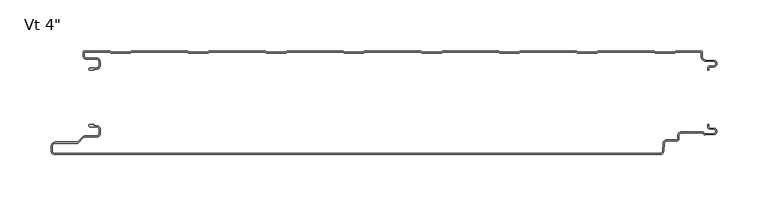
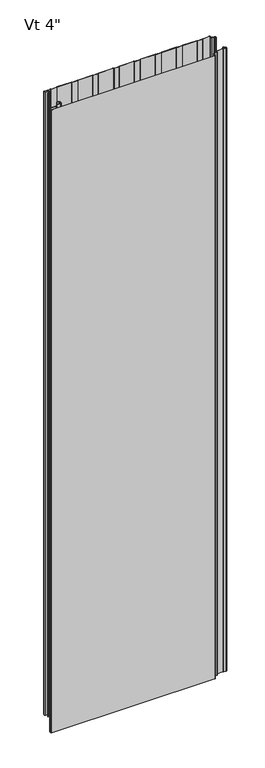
"""IFC4 building model written with IfcOpenShell, lengths in millimetres: plate geometry."""

from ifc_helpers import new_model, si_unit, point, frame, frame_2d, origin, origin_with_axes, place, context, project, spatial, polyline, circle_curve, trimmed, segment, composite_curve, outline, extrude, source, transform, mapped, element, save
from ifc_brep_helpers import plane_surface, cylinder_surface, revolved_surface, advanced_brep


def plate_2a5bf7fb(model_context):
    return source(origin(), model_context, "Body", "SolidModel", [
        advanced_brep(
        [(-302.7686912, -17.0015159, 2400.0), (-303.7686884, -18.0015191, 2400.0), (-302.7686912, -19.0015104, 2400.0), (-298.7684875, -19.0015105, 2400.0), (-298.7684875, -18.0015159, 2400.0), (-296.0762777, -18.0015159, 2400.0), (-292.776282, -14.7015202, 2400.0), (-292.776282, -10.301529, 2400.0), (-296.0762775, -7.0015335, 2400.0), (-306.4962564, -7.0015335, 2400.0), (-308.2662506, -5.2315393, 2400.0), (-308.2662506, -0.9999916, 2400.0), (-283.765974, -0.9999916, 2400.0), (-282.3803314, -2.2002307, 2400.0), (-263.0051651, -2.2002307, 2400.0), (-261.6195321, -1.0, 2400.0), (-207.5661167, -1.0, 2400.0), (-206.1804838, -2.2002307, 2400.0), (-186.8053175, -2.2002307, 2400.0), (-185.4196845, -1.0, 2400.0), (-131.3662691, -1.0, 2400.0), (-129.9806362, -2.2002307, 2400.0), (-110.6054699, -2.2002307, 2400.0), (-109.2198369, -1.0, 2400.0), (-55.1664215, -1.0, 2400.0), (-53.7807886, -2.2002307, 2400.0), (-34.4056223, -2.2002307, 2400.0), (-33.0199893, -1.0, 2400.0), (21.0334261, -1.0, 2400.0), (22.419059, -2.2002307, 2400.0), (41.7942253, -2.2002307, 2400.0), (43.1798583, -1.0, 2400.0), (97.2332737, -1.0, 2400.0), (98.6189066, -2.2002307, 2400.0), (117.9940729, -2.2002307, 2400.0), (119.3797059, -1.0, 2400.0), (173.4331213, -1.0, 2400.0), (174.8187542, -2.2002307, 2400.0), (194.1939205, -2.2002307, 2400.0), (195.5795535, -1.0, 2400.0), (249.6329689, -1.0, 2400.0), (251.0186018, -2.2002307, 2400.0), (270.3937681, -2.2002307, 2400.0), (271.7794011, -1.0, 2400.0), (296.2787013, -1.0, 2400.0), (296.2787013, -6.0026007, 2400.0), (300.1016499, -9.9974365, 2400.0), (308.5931719, -10.4046442, 2400.0), (308.5921924, -14.7059822, 2400.0), (304.4513685, -14.9256429, 2400.0), (302.7686884, -16.6743462, 2400.0), (302.7686884, -19.0015288, 2400.0), (303.7686884, -19.0015288, 2400.0), (303.7686884, -16.6743462, 2400.0), (304.4955779, -15.9247038, 2400.0), (308.6451655, -15.7045782, 2400.0), (308.6435732, -9.405912, 2400.0), (300.1495495, -8.9985844, 2400.0), (297.2787013, -6.0004836, 2400.0), (297.2787013, -1.4015652, 2400.0), (295.878797, -0.001568, 2400.0), (271.9275849, 2.09e-05, 2400.0), (271.0119353, -0.3417885, 2400.0), (270.0208877, -1.2002307, 2400.0), (251.3914823, -1.2002307, 2400.0), (250.4004346, -0.3417885, 2400.0), (249.4838177, 0.0, 2400.0), (195.7287046, 0.0, 2400.0), (194.8120877, -0.3417885, 2400.0), (193.8210401, -1.2002307, 2400.0), (175.1916347, -1.2002307, 2400.0), (174.200587, -0.3417885, 2400.0), (173.2839701, 0.0, 2400.0), (119.528857, 0.0, 2400.0), (118.6122401, -0.3417885, 2400.0), (117.6211925, -1.2002307, 2400.0), (98.9917871, -1.2002307, 2400.0), (98.0007394, -0.3417885, 2400.0), (97.0841225, 0.0, 2400.0), (43.3290094, 0.0, 2400.0), (42.4123925, -0.3417885, 2400.0), (41.4213449, -1.2002307, 2400.0), (22.7919395, -1.2002307, 2400.0), (21.8008918, -0.3417885, 2400.0), (20.8842749, 0.0, 2400.0), (-32.8708382, 0.0, 2400.0), (-33.7874551, -0.3417885, 2400.0), (-34.7785027, -1.2002307, 2400.0), (-53.4079081, -1.2002307, 2400.0), (-54.3989558, -0.3417885, 2400.0), (-55.3155727, 0.0, 2400.0), (-109.0706858, 0.0, 2400.0), (-109.9873027, -0.3417885, 2400.0), (-110.9783503, -1.2002307, 2400.0), (-129.6077557, -1.2002307, 2400.0), (-130.5988034, -0.3417885, 2400.0), (-131.5154203, 0.0, 2400.0), (-185.2705334, 0.0, 2400.0), (-186.1871503, -0.3417885, 2400.0), (-187.1781979, -1.2002307, 2400.0), (-205.8076033, -1.2002307, 2400.0), (-206.798651, -0.3417885, 2400.0), (-207.7152679, 0.0, 2400.0), (-261.470381, 0.0, 2400.0), (-262.3869979, -0.3417885, 2400.0), (-263.3780455, -1.2002307, 2400.0), (-282.0074509, -1.2002307, 2400.0), (-282.9984986, -0.3417885, 2400.0), (-283.9152069, 0.0, 2400.0), (-307.8662545, 8.4e-06, 2400.0), (-309.2662506, -1.3999878, 2400.0), (-309.2662506, -5.2315393, 2400.0), (-306.4962564, -8.0015335, 2400.0), (-296.0762775, -8.0015335, 2400.0), (-293.776282, -10.301529, 2400.0), (-293.776282, -14.7015202, 2400.0), (-296.0762777, -17.0015159, 2400.0), (-302.7686912, -17.0015159, 0.0), (-296.0762777, -17.0015159, 0.0), (-293.776282, -14.7015202, 0.0), (-293.776282, -10.301529, 0.0), (-296.0762775, -8.0015335, 0.0), (-306.4962564, -8.0015335, 0.0), (-309.2662506, -5.2315393, 0.0), (-309.2662506, -1.3999878, 0.0), (-307.8662545, 8.4e-06, 0.0), (-283.9151155, 8.4e-06, 0.0), (-282.9984986, -0.3417885, 0.0), (-282.0074509, -1.2002307, 0.0), (-263.3780455, -1.2002307, 0.0), (-262.3869979, -0.3417885, 0.0), (-261.470381, 0.0, 0.0), (-207.7152679, 0.0, 0.0), (-206.798651, -0.3417885, 0.0), (-205.8076033, -1.2002307, 0.0), (-187.1781979, -1.2002307, 0.0), (-186.1871503, -0.3417885, 0.0), (-185.2705334, 0.0, 0.0), (-131.5154203, 0.0, 0.0), (-130.5988034, -0.3417885, 0.0), (-129.6077557, -1.2002307, 0.0), (-110.9783503, -1.2002307, 0.0), (-109.9873027, -0.3417885, 0.0), (-109.0706858, 0.0, 0.0), (-55.3155727, 0.0, 0.0), (-54.3989558, -0.3417885, 0.0), (-53.4079081, -1.2002307, 0.0), (-34.7785027, -1.2002307, 0.0), (-33.7874551, -0.3417885, 0.0), (-32.8708382, 0.0, 0.0), (20.8842749, 0.0, 0.0), (21.8008918, -0.3417885, 0.0), (22.7919395, -1.2002307, 0.0), (41.4213449, -1.2002307, 0.0), (42.4123925, -0.3417885, 0.0), (43.3290094, 0.0, 0.0), (97.0841225, 0.0, 0.0), (98.0007394, -0.3417885, 0.0), (98.9917871, -1.2002307, 0.0), (117.6211925, -1.2002307, 0.0), (118.6122401, -0.3417885, 0.0), (119.528857, 0.0, 0.0), (173.2839701, 0.0, 0.0), (174.200587, -0.3417885, 0.0), (175.1916347, -1.2002307, 0.0), (193.8210401, -1.2002307, 0.0), (194.8120877, -0.3417885, 0.0), (195.7287046, 0.0, 0.0), (249.4838177, 0.0, 0.0), (250.4004346, -0.3417885, 0.0), (251.3914823, -1.2002307, 0.0), (270.0208877, -1.2002307, 0.0), (271.0119353, -0.3417885, 0.0), (271.9285522, 0.0, 0.0), (295.878797, 2.09e-05, 0.0), (297.2787013, -1.4015652, 0.0), (297.2787013, -6.0004836, 0.0), (300.1495495, -8.9985844, 0.0), (308.6435732, -9.405912, 0.0), (308.6451655, -15.7045782, 0.0), (304.4955779, -15.9247038, 0.0), (303.7686884, -16.6743462, 0.0), (303.7686884, -19.0015288, 0.0), (302.7686884, -19.0015288, 0.0), (302.7686884, -16.6743462, 0.0), (304.4513685, -14.9256429, 0.0), (308.5921924, -14.7059822, 0.0), (308.5931719, -10.4046442, 0.0), (300.1016499, -9.9974365, 0.0), (296.2787013, -6.0026007, 0.0), (296.2787013, -1.0, 0.0), (271.7794011, -1.0, 0.0), (270.3937681, -2.2002307, 0.0), (251.0186018, -2.2002307, 0.0), (249.6329689, -1.0, 0.0), (195.5795535, -1.0, 0.0), (194.1939205, -2.2002307, 0.0), (174.8187542, -2.2002307, 0.0), (173.4331213, -1.0, 0.0), (119.3797059, -1.0, 0.0), (117.9940729, -2.2002307, 0.0), (98.6189066, -2.2002307, 0.0), (97.2332737, -1.0, 0.0), (43.1798583, -1.0, 0.0), (41.7942253, -2.2002307, 0.0), (22.419059, -2.2002307, 0.0), (21.0334261, -1.0, 0.0), (-33.0199893, -1.0, 0.0), (-34.4056223, -2.2002307, 0.0), (-53.7807886, -2.2002307, 0.0), (-55.1664215, -1.0, 0.0), (-109.2198369, -1.0, 0.0), (-110.6054699, -2.2002307, 0.0), (-129.9806362, -2.2002307, 0.0), (-131.3662691, -1.0, 0.0), (-185.4196845, -1.0, 0.0), (-186.8053175, -2.2002307, 0.0), (-206.1804838, -2.2002307, 0.0), (-207.5661167, -1.0, 0.0), (-261.6195321, -1.0, 0.0), (-263.0051651, -2.2002307, 0.0), (-282.3803314, -2.2002307, 0.0), (-283.765974, -0.9999916, 0.0), (-308.2662506, -0.9999916, 0.0), (-308.2662506, -5.2315393, 0.0), (-306.4962564, -7.0015335, 0.0), (-296.0762775, -7.0015335, 0.0), (-292.776282, -10.301529, 0.0), (-292.776282, -14.7015202, 0.0), (-296.0762777, -18.0015159, 0.0), (-298.7684875, -18.0015159, 0.0), (-298.7684875, -19.0015105, 0.0), (-302.7686912, -19.0015105, 0.0), (-303.7686884, -18.0015191, 0.0)],
        [
            (0, 1, circle_curve(frame((-302.7686912, -18.0015132, 2400.0), z_axis=(0.0, 0.0, 1.0), x_axis=(1.0, 0.0, 0.0)), 0.9999973)),
            (1, 2, circle_curve(frame((-302.7686912, -18.0015132, 2400.0), z_axis=(0.0, 0.0, 1.0), x_axis=(1.0, 0.0, 0.0)), 0.9999972)),
            (2, 3),
            (3, 4),
            (4, 5),
            (5, 6, circle_curve(frame((-296.0762777, -14.7015202, 2400.0), z_axis=(0.0, 0.0, 1.0), x_axis=(1.0, 0.0, 0.0)), 3.2999957)),
            (6, 7),
            (7, 8, circle_curve(frame((-296.0762775, -10.301529, 2400.0), z_axis=(0.0, 0.0, 1.0), x_axis=(1.0, 0.0, 0.0)), 3.2999955)),
            (8, 9),
            (9, 10, circle_curve(frame((-306.4962564, -5.2315393, 2400.0), z_axis=(0.0, 0.0, -1.0), x_axis=(1.0, 0.0, 0.0)), 1.7699942)),
            (10, 11),
            (11, 12),
            (12, 13),
            (13, 14),
            (14, 15),
            (15, 16),
            (16, 17),
            (17, 18),
            (18, 19),
            (19, 20),
            (20, 21),
            (21, 22),
            (22, 23),
            (23, 24),
            (24, 25),
            (25, 26),
            (26, 27),
            (27, 28),
            (28, 29),
            (29, 30),
            (30, 31),
            (31, 32),
            (32, 33),
            (33, 34),
            (34, 35),
            (35, 36),
            (36, 37),
            (37, 38),
            (38, 39),
            (39, 40),
            (40, 41),
            (41, 42),
            (42, 43),
            (43, 44),
            (44, 45),
            (45, 46, circle_curve(frame((300.2939817, -5.9867338, 2400.0), z_axis=(0.0, 0.0, 1.0), x_axis=(1.0, 0.0, 0.0)), 4.0153117)),
            (46, 47),
            (47, 48, circle_curve(frame((308.4781032, -12.5552871, 2400.0), z_axis=(0.0, 0.0, -1.0), x_axis=(1.0, 0.0, 0.0)), 2.153719)),
            (48, 49),
            (49, 50, circle_curve(frame((304.5186869, -16.6743462, 2400.0), z_axis=(0.0, 0.0, 1.0), x_axis=(1.0, 0.0, 0.0)), 1.7499985)),
            (50, 51),
            (51, 52),
            (52, 53),
            (53, 54, circle_curve(frame((304.5186869, -16.6743462, 2400.0), z_axis=(0.0, 0.0, -1.0), x_axis=(1.0, 0.0, 0.0)), 0.7499985)),
            (54, 55),
            (55, 56, circle_curve(frame((308.4781032, -12.5552871, 2400.0), z_axis=(0.0, 0.0, 1.0), x_axis=(1.0, 0.0, 0.0)), 3.153719)),
            (56, 57),
            (57, 58, circle_curve(frame((300.2939817, -5.9867338, 2400.0), z_axis=(0.0, 0.0, -1.0), x_axis=(1.0, 0.0, 0.0)), 3.0153117)),
            (58, 59),
            (59, 60, circle_curve(frame((295.8787041, -1.4015652, 2400.0), z_axis=(0.0, 0.0, 1.0), x_axis=(1.0, 0.0, 0.0)), 1.3999972)),
            (60, 61),
            (61, 62, circle_curve(frame((271.9285522, -1.3999972, 2400.0), z_axis=(0.0, 0.0, 1.0), x_axis=(1.0, 0.0, 0.0)), 1.3999972)),
            (62, 63),
            (63, 64),
            (64, 65),
            (65, 66, circle_curve(frame((249.4838177, -1.3999972, 2400.0), z_axis=(0.0, 0.0, 1.0), x_axis=(1.0, 0.0, 0.0)), 1.3999972)),
            (66, 67),
            (67, 68, circle_curve(frame((195.7287046, -1.3999972, 2400.0), z_axis=(0.0, 0.0, 1.0), x_axis=(1.0, 0.0, 0.0)), 1.3999972)),
            (68, 69),
            (69, 70),
            (70, 71),
            (71, 72, circle_curve(frame((173.2839701, -1.3999972, 2400.0), z_axis=(0.0, 0.0, 1.0), x_axis=(1.0, 0.0, 0.0)), 1.3999972)),
            (72, 73),
            (73, 74, circle_curve(frame((119.528857, -1.3999972, 2400.0), z_axis=(0.0, 0.0, 1.0), x_axis=(1.0, 0.0, 0.0)), 1.3999972)),
            (74, 75),
            (75, 76),
            (76, 77),
            (77, 78, circle_curve(frame((97.0841225, -1.3999972, 2400.0), z_axis=(0.0, 0.0, 1.0), x_axis=(1.0, 0.0, 0.0)), 1.3999972)),
            (78, 79),
            (79, 80, circle_curve(frame((43.3290094, -1.3999972, 2400.0), z_axis=(0.0, 0.0, 1.0), x_axis=(1.0, 0.0, 0.0)), 1.3999972)),
            (80, 81),
            (81, 82),
            (82, 83),
            (83, 84, circle_curve(frame((20.8842749, -1.3999972, 2400.0), z_axis=(0.0, 0.0, 1.0), x_axis=(1.0, 0.0, 0.0)), 1.3999972)),
            (84, 85),
            (85, 86, circle_curve(frame((-32.8708382, -1.3999972, 2400.0), z_axis=(0.0, 0.0, 1.0), x_axis=(1.0, 0.0, 0.0)), 1.3999972)),
            (86, 87),
            (87, 88),
            (88, 89),
            (89, 90, circle_curve(frame((-55.3155727, -1.3999972, 2400.0), z_axis=(0.0, 0.0, 1.0), x_axis=(1.0, 0.0, 0.0)), 1.3999972)),
            (90, 91),
            (91, 92, circle_curve(frame((-109.0706858, -1.3999972, 2400.0), z_axis=(0.0, 0.0, 1.0), x_axis=(1.0, 0.0, 0.0)), 1.3999972)),
            (92, 93),
            (93, 94),
            (94, 95),
            (95, 96, circle_curve(frame((-131.5154203, -1.3999972, 2400.0), z_axis=(0.0, 0.0, 1.0), x_axis=(1.0, 0.0, 0.0)), 1.3999972)),
            (96, 97),
            (97, 98, circle_curve(frame((-185.2705334, -1.3999972, 2400.0), z_axis=(0.0, 0.0, 1.0), x_axis=(1.0, 0.0, 0.0)), 1.3999972)),
            (98, 99),
            (99, 100),
            (100, 101),
            (101, 102, circle_curve(frame((-207.7152679, -1.3999972, 2400.0), z_axis=(0.0, 0.0, 1.0), x_axis=(1.0, 0.0, 0.0)), 1.3999972)),
            (102, 103),
            (103, 104, circle_curve(frame((-261.470381, -1.3999972, 2400.0), z_axis=(0.0, 0.0, 1.0), x_axis=(1.0, 0.0, 0.0)), 1.3999972)),
            (104, 105),
            (105, 106),
            (106, 107),
            (107, 108, circle_curve(frame((-283.9151155, -1.3999972, 2400.0), z_axis=(0.0, 0.0, 1.0), x_axis=(1.0, 0.0, 0.0)), 1.3999972)),
            (108, 109),
            (109, 110, circle_curve(frame((-307.8662545, -1.3999878, 2400.0), z_axis=(0.0, 0.0, 1.0), x_axis=(1.0, 0.0, 0.0)), 1.3999962)),
            (110, 111),
            (111, 112, circle_curve(frame((-306.4962564, -5.2315393, 2400.0), z_axis=(0.0, 0.0, 1.0), x_axis=(1.0, 0.0, 0.0)), 2.7699942)),
            (112, 113),
            (113, 114, circle_curve(frame((-296.0762775, -10.301529, 2400.0), z_axis=(0.0, 0.0, -1.0), x_axis=(1.0, 0.0, 0.0)), 2.2999955)),
            (114, 115),
            (115, 116, circle_curve(frame((-296.0762777, -14.7015202, 2400.0), z_axis=(0.0, 0.0, -1.0), x_axis=(1.0, 0.0, 0.0)), 2.2999957)),
            (116, 0),
            (117, 118),
            (118, 119, circle_curve(frame((-296.0762777, -14.7015202, 0.0), z_axis=(0.0, 0.0, 1.0), x_axis=(1.0, 0.0, 0.0)), 2.2999957)),
            (119, 120),
            (120, 121, circle_curve(frame((-296.0762775, -10.301529, 0.0), z_axis=(0.0, 0.0, 1.0), x_axis=(1.0, 0.0, 0.0)), 2.2999955)),
            (121, 122),
            (122, 123, circle_curve(frame((-306.4962564, -5.2315393, 0.0), z_axis=(0.0, 0.0, -1.0), x_axis=(1.0, 0.0, 0.0)), 2.7699942)),
            (123, 124),
            (124, 125, circle_curve(frame((-307.8662545, -1.3999878, 0.0), z_axis=(0.0, 0.0, -1.0), x_axis=(1.0, 0.0, 0.0)), 1.3999962)),
            (125, 126),
            (126, 127, circle_curve(frame((-283.9151155, -1.3999972, 0.0), z_axis=(0.0, 0.0, -1.0), x_axis=(1.0, 0.0, 0.0)), 1.3999972)),
            (127, 128),
            (128, 129),
            (129, 130),
            (130, 131, circle_curve(frame((-261.470381, -1.3999972, 0.0), z_axis=(0.0, 0.0, -1.0), x_axis=(1.0, 0.0, 0.0)), 1.3999972)),
            (131, 132),
            (132, 133, circle_curve(frame((-207.7152679, -1.3999972, 0.0), z_axis=(0.0, 0.0, -1.0), x_axis=(1.0, 0.0, 0.0)), 1.3999972)),
            (133, 134),
            (134, 135),
            (135, 136),
            (136, 137, circle_curve(frame((-185.2705334, -1.3999972, 0.0), z_axis=(0.0, 0.0, -1.0), x_axis=(1.0, 0.0, 0.0)), 1.3999972)),
            (137, 138),
            (138, 139, circle_curve(frame((-131.5154203, -1.3999972, 0.0), z_axis=(0.0, 0.0, -1.0), x_axis=(1.0, 0.0, 0.0)), 1.3999972)),
            (139, 140),
            (140, 141),
            (141, 142),
            (142, 143, circle_curve(frame((-109.0706858, -1.3999972, 0.0), z_axis=(0.0, 0.0, -1.0), x_axis=(1.0, 0.0, 0.0)), 1.3999972)),
            (143, 144),
            (144, 145, circle_curve(frame((-55.3155727, -1.3999972, 0.0), z_axis=(0.0, 0.0, -1.0), x_axis=(1.0, 0.0, 0.0)), 1.3999972)),
            (145, 146),
            (146, 147),
            (147, 148),
            (148, 149, circle_curve(frame((-32.8708382, -1.3999972, 0.0), z_axis=(0.0, 0.0, -1.0), x_axis=(1.0, 0.0, 0.0)), 1.3999972)),
            (149, 150),
            (150, 151, circle_curve(frame((20.8842749, -1.3999972, 0.0), z_axis=(0.0, 0.0, -1.0), x_axis=(1.0, 0.0, 0.0)), 1.3999972)),
            (151, 152),
            (152, 153),
            (153, 154),
            (154, 155, circle_curve(frame((43.3290094, -1.3999972, 0.0), z_axis=(0.0, 0.0, -1.0), x_axis=(1.0, 0.0, 0.0)), 1.3999972)),
            (155, 156),
            (156, 157, circle_curve(frame((97.0841225, -1.3999972, 0.0), z_axis=(0.0, 0.0, -1.0), x_axis=(1.0, 0.0, 0.0)), 1.3999972)),
            (157, 158),
            (158, 159),
            (159, 160),
            (160, 161, circle_curve(frame((119.528857, -1.3999972, 0.0), z_axis=(0.0, 0.0, -1.0), x_axis=(1.0, 0.0, 0.0)), 1.3999972)),
            (161, 162),
            (162, 163, circle_curve(frame((173.2839701, -1.3999972, 0.0), z_axis=(0.0, 0.0, -1.0), x_axis=(1.0, 0.0, 0.0)), 1.3999972)),
            (163, 164),
            (164, 165),
            (165, 166),
            (166, 167, circle_curve(frame((195.7287046, -1.3999972, 0.0), z_axis=(0.0, 0.0, -1.0), x_axis=(1.0, 0.0, 0.0)), 1.3999972)),
            (167, 168),
            (168, 169, circle_curve(frame((249.4838177, -1.3999972, 0.0), z_axis=(0.0, 0.0, -1.0), x_axis=(1.0, 0.0, 0.0)), 1.3999972)),
            (169, 170),
            (170, 171),
            (171, 172),
            (172, 173, circle_curve(frame((271.9285522, -1.3999972, 0.0), z_axis=(0.0, 0.0, -1.0), x_axis=(1.0, 0.0, 0.0)), 1.3999972)),
            (173, 174),
            (174, 175, circle_curve(frame((295.8787041, -1.4015652, 0.0), z_axis=(0.0, 0.0, -1.0), x_axis=(1.0, 0.0, 0.0)), 1.3999972)),
            (175, 176),
            (176, 177, circle_curve(frame((300.2939817, -5.9867338, 0.0), z_axis=(0.0, 0.0, 1.0), x_axis=(1.0, 0.0, 0.0)), 3.0153117)),
            (177, 178),
            (178, 179, circle_curve(frame((308.4781032, -12.5552871, 0.0), z_axis=(0.0, 0.0, -1.0), x_axis=(1.0, 0.0, 0.0)), 3.153719)),
            (179, 180),
            (180, 181, circle_curve(frame((304.5186869, -16.6743462, 0.0), z_axis=(0.0, 0.0, 1.0), x_axis=(1.0, 0.0, 0.0)), 0.7499985)),
            (181, 182),
            (182, 183),
            (183, 184),
            (184, 185, circle_curve(frame((304.5186869, -16.6743462, 0.0), z_axis=(0.0, 0.0, -1.0), x_axis=(1.0, 0.0, 0.0)), 1.7499985)),
            (185, 186),
            (186, 187, circle_curve(frame((308.4781032, -12.5552871, 0.0), z_axis=(0.0, 0.0, 1.0), x_axis=(1.0, 0.0, 0.0)), 2.153719)),
            (187, 188),
            (188, 189, circle_curve(frame((300.2939817, -5.9867338, 0.0), z_axis=(0.0, 0.0, -1.0), x_axis=(1.0, 0.0, 0.0)), 4.0153117)),
            (189, 190),
            (190, 191),
            (191, 192),
            (192, 193),
            (193, 194),
            (194, 195),
            (195, 196),
            (196, 197),
            (197, 198),
            (198, 199),
            (199, 200),
            (200, 201),
            (201, 202),
            (202, 203),
            (203, 204),
            (204, 205),
            (205, 206),
            (206, 207),
            (207, 208),
            (208, 209),
            (209, 210),
            (210, 211),
            (211, 212),
            (212, 213),
            (213, 214),
            (214, 215),
            (215, 216),
            (216, 217),
            (217, 218),
            (218, 219),
            (219, 220),
            (220, 221),
            (221, 222),
            (222, 223),
            (223, 224),
            (224, 225, circle_curve(frame((-306.4962564, -5.2315393, 0.0), z_axis=(0.0, 0.0, 1.0), x_axis=(1.0, 0.0, 0.0)), 1.7699942)),
            (225, 226),
            (226, 227, circle_curve(frame((-296.0762775, -10.301529, 0.0), z_axis=(0.0, 0.0, -1.0), x_axis=(1.0, 0.0, 0.0)), 3.2999955)),
            (227, 228),
            (228, 229, circle_curve(frame((-296.0762777, -14.7015202, 0.0), z_axis=(0.0, 0.0, -1.0), x_axis=(1.0, 0.0, 0.0)), 3.2999957)),
            (229, 230),
            (230, 231),
            (231, 232),
            (232, 233, circle_curve(frame((-302.7686912, -18.0015132, 0.0), z_axis=(0.0, 0.0, -1.0), x_axis=(1.0, 0.0, 0.0)), 0.9999972)),
            (233, 117, circle_curve(frame((-302.7686912, -18.0015132, 0.0), z_axis=(0.0, 0.0, -1.0), x_axis=(1.0, 0.0, 0.0)), 0.9999973)),
            (116, 118),
            (117, 0),
            (115, 119),
            (114, 120),
            (113, 121),
            (112, 122),
            (111, 123),
            (110, 124),
            (109, 125),
            (108, 126),
            (90, 144),
            (143, 91),
            (107, 127),
            (106, 128),
            (105, 129),
            (103, 131),
            (130, 104),
            (101, 133),
            (132, 102),
            (86, 148),
            (147, 87),
            (142, 92),
            (141, 93),
            (96, 138),
            (137, 97),
            (89, 145),
            (88, 146),
            (85, 149),
            (136, 98),
            (99, 135),
            (134, 100),
            (95, 139),
            (94, 140),
            (2, 232),
            (231, 3),
            (1, 233),
            (84, 150),
            (83, 151),
            (82, 152),
            (81, 153),
            (80, 154),
            (79, 155),
            (78, 156),
            (77, 157),
            (76, 158),
            (75, 159),
            (74, 160),
            (73, 161),
            (72, 162),
            (71, 163),
            (70, 164),
            (69, 165),
            (68, 166),
            (67, 167),
            (66, 168),
            (65, 169),
            (64, 170),
            (63, 171),
            (62, 172),
            (61, 173),
            (60, 174),
            (59, 175),
            (58, 176),
            (57, 177),
            (56, 178),
            (55, 179),
            (54, 180),
            (53, 181),
            (52, 182),
            (51, 183),
            (50, 184),
            (49, 185),
            (48, 186),
            (47, 187),
            (46, 188),
            (45, 189),
            (44, 190),
            (43, 191),
            (42, 192),
            (41, 193),
            (40, 194),
            (39, 195),
            (38, 196),
            (37, 197),
            (36, 198),
            (35, 199),
            (34, 200),
            (33, 201),
            (32, 202),
            (31, 203),
            (30, 204),
            (29, 205),
            (28, 206),
            (27, 207),
            (26, 208),
            (25, 209),
            (24, 210),
            (23, 211),
            (22, 212),
            (21, 213),
            (20, 214),
            (19, 215),
            (18, 216),
            (17, 217),
            (16, 218),
            (15, 219),
            (14, 220),
            (13, 221),
            (12, 222),
            (11, 223),
            (10, 224),
            (9, 225),
            (8, 226),
            (7, 227),
            (6, 228),
            (5, 229),
            (4, 230),
        ],
        [
            plane_surface(frame((0.0, 0.0, 2400.0), z_axis=(0.0, 0.0, 1.0), x_axis=(0.0, 1.0, 0.0))),
            plane_surface(frame((0.0, 0.0, 0.0), z_axis=(0.0, 0.0, -1.0), x_axis=(0.0, 1.0, 0.0))),
            plane_surface(frame((-302.7686912, -17.0015159, 2400.0), z_axis=(0.0, 1.0, 0.0), x_axis=(0.0, 0.0, -1.0))),
            revolved_surface(polyline([(-293.776282, -14.7015202, 0.0), (-293.776282, -14.7015202, 2400.0)]), (-296.0762777, -14.7015202, 2400.0), (0.0, 0.0, -1.0)),
            plane_surface(frame((-293.776282, -14.7015202, 2400.0), z_axis=(-1.0, 0.0, 0.0), x_axis=(0.0, 0.0, -1.0))),
            revolved_surface(polyline([(-293.776282, -10.301529, 0.0), (-293.776282, -10.301529, 2400.0)]), (-296.0762775, -10.301529, 2400.0), (0.0, 0.0, -1.0)),
            plane_surface(frame((-296.0762775, -8.0015335, 2400.0), z_axis=(0.0, -1.0, 0.0), x_axis=(0.0, 0.0, -1.0))),
            cylinder_surface(frame((-306.4962564, -5.2315393, 2400.0), z_axis=(0.0, 0.0, 1.0), x_axis=(1.0, 0.0, 0.0)), 2.7699942),
            plane_surface(frame((-309.2662506, -5.2315393, 2400.0), z_axis=(-1.0, 0.0, 0.0), x_axis=(0.0, 0.0, -1.0))),
            cylinder_surface(frame((-307.8662545, -1.3999878, 2400.0), z_axis=(0.0, 0.0, 1.0), x_axis=(1.0, 0.0, 0.0)), 1.3999962),
            plane_surface(frame((-307.8662545, 8.4e-06, 2400.0), z_axis=(0.0, 1.0, 0.0), x_axis=(0.0, 0.0, -1.0))),
            plane_surface(frame((-109.0706858, 0.0, 2400.0), z_axis=(0.0, 1.0, 0.0), x_axis=(0.0, 0.0, -1.0))),
            cylinder_surface(frame((-283.9151155, -1.3999972, 2400.0), z_axis=(0.0, 0.0, 1.0), x_axis=(1.0, 0.0, 0.0)), 1.3999972),
            plane_surface(frame((-282.9984986, -0.3417885, 2400.0), z_axis=(0.6547276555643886, 0.755864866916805, 0.0), x_axis=(0.0, 0.0, -1.0))),
            plane_surface(frame((-272.6927482, -1.2002307, 2400.0), z_axis=(0.0, 1.0, 0.0), x_axis=(0.0, 0.0, -1.0))),
            cylinder_surface(frame((-261.470381, -1.3999972, 2400.0), z_axis=(0.0, 0.0, 1.0), x_axis=(1.0, 0.0, 0.0)), 1.3999972),
            plane_surface(frame((-263.3780455, -1.2002307, 2400.0), z_axis=(-0.6547276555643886, 0.755864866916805, 0.0), x_axis=(0.0, 0.0, -1.0))),
            cylinder_surface(frame((-207.7152679, -1.3999972, 2400.0), z_axis=(0.0, 0.0, 1.0), x_axis=(1.0, 0.0, 0.0)), 1.3999972),
            plane_surface(frame((-34.7785027, -1.2002307, 2400.0), z_axis=(-0.6547276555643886, 0.755864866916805, 0.0), x_axis=(0.0, 0.0, -1.0))),
            cylinder_surface(frame((-109.0706858, -1.3999972, 2400.0), z_axis=(0.0, 0.0, 1.0), x_axis=(1.0, 0.0, 0.0)), 1.3999972),
            plane_surface(frame((-110.9783503, -1.2002307, 2400.0), z_axis=(-0.6547276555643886, 0.755864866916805, 0.0), x_axis=(0.0, 0.0, -1.0))),
            plane_surface(frame((-185.2705334, 0.0, 2400.0), z_axis=(0.0, 1.0, 0.0), x_axis=(0.0, 0.0, -1.0))),
            cylinder_surface(frame((-55.3155727, -1.3999972, 2400.0), z_axis=(0.0, 0.0, 1.0), x_axis=(1.0, 0.0, 0.0)), 1.3999972),
            plane_surface(frame((-54.3989558, -0.3417885, 2400.0), z_axis=(0.6547276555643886, 0.755864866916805, 0.0), x_axis=(0.0, 0.0, -1.0))),
            plane_surface(frame((-44.0932054, -1.2002307, 2400.0), z_axis=(0.0, 1.0, 0.0), x_axis=(0.0, 0.0, -1.0))),
            cylinder_surface(frame((-32.8708382, -1.3999972, 2400.0), z_axis=(0.0, 0.0, 1.0), x_axis=(1.0, 0.0, 0.0)), 1.3999972),
            cylinder_surface(frame((-185.2705334, -1.3999972, 2400.0), z_axis=(0.0, 0.0, 1.0), x_axis=(1.0, 0.0, 0.0)), 1.3999972),
            plane_surface(frame((-196.4929006, -1.2002307, 2400.0), z_axis=(0.0, 1.0, 0.0), x_axis=(0.0, 0.0, -1.0))),
            plane_surface(frame((-206.798651, -0.3417885, 2400.0), z_axis=(0.6547276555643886, 0.755864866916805, 0.0), x_axis=(0.0, 0.0, -1.0))),
            plane_surface(frame((-187.1781979, -1.2002307, 2400.0), z_axis=(-0.6547276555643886, 0.755864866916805, 0.0), x_axis=(0.0, 0.0, -1.0))),
            plane_surface(frame((-261.470381, 0.0, 2400.0), z_axis=(0.0, 1.0, 0.0), x_axis=(0.0, 0.0, -1.0))),
            cylinder_surface(frame((-131.5154203, -1.3999972, 2400.0), z_axis=(0.0, 0.0, 1.0), x_axis=(1.0, 0.0, 0.0)), 1.3999972),
            plane_surface(frame((-130.5988034, -0.3417885, 2400.0), z_axis=(0.6547276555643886, 0.755864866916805, 0.0), x_axis=(0.0, 0.0, -1.0))),
            plane_surface(frame((-120.293053, -1.2002307, 2400.0), z_axis=(0.0, 1.0, 0.0), x_axis=(0.0, 0.0, -1.0))),
            plane_surface(frame((-298.7684875, -19.0015105, 2400.0), z_axis=(0.0, -1.0, 0.0), x_axis=(0.0, 0.0, -1.0))),
            cylinder_surface(frame((-302.7686912, -18.0015132, 2400.0), z_axis=(0.0, 0.0, 1.0), x_axis=(1.0, 0.0, 0.0)), 0.9999972),
            cylinder_surface(frame((-302.7686912, -18.0015132, 2400.0), z_axis=(0.0, 0.0, 1.0), x_axis=(1.0, 0.0, 0.0)), 0.9999973),
            plane_surface(frame((-32.8708382, 0.0, 2400.0), z_axis=(0.0, 1.0, 0.0), x_axis=(0.0, 0.0, -1.0))),
            cylinder_surface(frame((20.8842749, -1.3999972, 2400.0), z_axis=(0.0, 0.0, 1.0), x_axis=(1.0, 0.0, 0.0)), 1.3999972),
            plane_surface(frame((21.8008918, -0.3417885, 2400.0), z_axis=(0.6547276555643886, 0.755864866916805, 0.0), x_axis=(0.0, 0.0, -1.0))),
            plane_surface(frame((32.1066422, -1.2002307, 2400.0), z_axis=(0.0, 1.0, 0.0), x_axis=(0.0, 0.0, -1.0))),
            plane_surface(frame((41.4213449, -1.2002307, 2400.0), z_axis=(-0.6547276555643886, 0.755864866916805, 0.0), x_axis=(0.0, 0.0, -1.0))),
            cylinder_surface(frame((43.3290094, -1.3999972, 2400.0), z_axis=(0.0, 0.0, 1.0), x_axis=(1.0, 0.0, 0.0)), 1.3999972),
            plane_surface(frame((43.3290094, 0.0, 2400.0), z_axis=(0.0, 1.0, 0.0), x_axis=(0.0, 0.0, -1.0))),
            cylinder_surface(frame((97.0841225, -1.3999972, 2400.0), z_axis=(0.0, 0.0, 1.0), x_axis=(1.0, 0.0, 0.0)), 1.3999972),
            plane_surface(frame((98.0007394, -0.3417885, 2400.0), z_axis=(0.6547276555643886, 0.755864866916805, 0.0), x_axis=(0.0, 0.0, -1.0))),
            plane_surface(frame((108.3064898, -1.2002307, 2400.0), z_axis=(0.0, 1.0, 0.0), x_axis=(0.0, 0.0, -1.0))),
            plane_surface(frame((117.6211925, -1.2002307, 2400.0), z_axis=(-0.6547276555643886, 0.755864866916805, 0.0), x_axis=(0.0, 0.0, -1.0))),
            cylinder_surface(frame((119.528857, -1.3999972, 2400.0), z_axis=(0.0, 0.0, 1.0), x_axis=(1.0, 0.0, 0.0)), 1.3999972),
            plane_surface(frame((119.528857, 0.0, 2400.0), z_axis=(0.0, 1.0, 0.0), x_axis=(0.0, 0.0, -1.0))),
            cylinder_surface(frame((173.2839701, -1.3999972, 2400.0), z_axis=(0.0, 0.0, 1.0), x_axis=(1.0, 0.0, 0.0)), 1.3999972),
            plane_surface(frame((174.200587, -0.3417885, 2400.0), z_axis=(0.6547276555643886, 0.755864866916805, 0.0), x_axis=(0.0, 0.0, -1.0))),
            plane_surface(frame((184.5063374, -1.2002307, 2400.0), z_axis=(0.0, 1.0, 0.0), x_axis=(0.0, 0.0, -1.0))),
            plane_surface(frame((193.8210401, -1.2002307, 2400.0), z_axis=(-0.6547276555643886, 0.755864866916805, 0.0), x_axis=(0.0, 0.0, -1.0))),
            cylinder_surface(frame((195.7287046, -1.3999972, 2400.0), z_axis=(0.0, 0.0, 1.0), x_axis=(1.0, 0.0, 0.0)), 1.3999972),
            plane_surface(frame((195.7287046, 0.0, 2400.0), z_axis=(0.0, 1.0, 0.0), x_axis=(0.0, 0.0, -1.0))),
            cylinder_surface(frame((249.4838177, -1.3999972, 2400.0), z_axis=(0.0, 0.0, 1.0), x_axis=(1.0, 0.0, 0.0)), 1.3999972),
            plane_surface(frame((250.4004346, -0.3417885, 2400.0), z_axis=(0.6547276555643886, 0.755864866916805, 0.0), x_axis=(0.0, 0.0, -1.0))),
            plane_surface(frame((260.706185, -1.2002307, 2400.0), z_axis=(0.0, 1.0, 0.0), x_axis=(0.0, 0.0, -1.0))),
            plane_surface(frame((270.0208877, -1.2002307, 2400.0), z_axis=(-0.6547276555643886, 0.755864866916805, 0.0), x_axis=(0.0, 0.0, -1.0))),
            cylinder_surface(frame((271.9285522, -1.3999972, 2400.0), z_axis=(0.0, 0.0, 1.0), x_axis=(1.0, 0.0, 0.0)), 1.3999972),
            plane_surface(frame((271.9275849, 2.09e-05, 2400.0), z_axis=(0.0, 1.0, 0.0), x_axis=(0.0, 0.0, -1.0))),
            cylinder_surface(frame((295.8787041, -1.4015652, 2400.0), z_axis=(0.0, 0.0, 1.0), x_axis=(1.0, 0.0, 0.0)), 1.3999972),
            plane_surface(frame((297.2787013, -1.4015652, 2400.0), z_axis=(1.0, 0.0, 0.0), x_axis=(0.0, 0.0, -1.0))),
            revolved_surface(polyline([(303.3092934, -5.9867338, 0.0), (303.3092934, -5.9867338, 2400.0)]), (300.2939817, -5.9867338, 2400.0), (0.0, 0.0, -1.0)),
            plane_surface(frame((300.1495495, -8.9985844, 2400.0), z_axis=(0.047899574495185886, 0.9988521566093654, 0.0), x_axis=(0.0, 0.0, -1.0))),
            cylinder_surface(frame((308.4781032, -12.5552871, 2400.0), z_axis=(0.0, 0.0, 1.0), x_axis=(1.0, 0.0, 0.0)), 3.153719),
            plane_surface(frame((308.6451655, -15.7045782, 2400.0), z_axis=(0.05297310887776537, -0.9985959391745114, 0.0), x_axis=(0.0, 0.0, -1.0))),
            revolved_surface(polyline([(305.2686854, -16.6743462, 0.0), (305.2686854, -16.6743462, 2400.0)]), (304.5186869, -16.6743462, 2400.0), (0.0, 0.0, -1.0)),
            plane_surface(frame((303.7686884, -17.5871409, 2400.0), z_axis=(1.0, 0.0, 0.0), x_axis=(0.0, 0.0, -1.0))),
            plane_surface(frame((303.7686884, -19.0015288, 2400.0), z_axis=(0.0, -1.0, 0.0), x_axis=(0.0, 0.0, -1.0))),
            plane_surface(frame((302.7686884, -17.5871409, 2400.0), z_axis=(-1.0, 0.0, 0.0), x_axis=(0.0, 0.0, -1.0))),
            cylinder_surface(frame((304.5186869, -16.6743462, 2400.0), z_axis=(0.0, 0.0, 1.0), x_axis=(1.0, 0.0, 0.0)), 1.7499985),
            plane_surface(frame((304.4513685, -14.9256429, 2400.0), z_axis=(-0.05297310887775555, 0.998595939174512, 0.0), x_axis=(0.0, 0.0, -1.0))),
            revolved_surface(polyline([(310.63182220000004, -12.5552871, 0.0), (310.63182220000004, -12.5552871, 2400.0)]), (308.4781032, -12.5552871, 2400.0), (0.0, 0.0, -1.0)),
            plane_surface(frame((308.5931719, -10.4046442, 2400.0), z_axis=(-0.04789957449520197, -0.9988521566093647, 0.0), x_axis=(0.0, 0.0, -1.0))),
            cylinder_surface(frame((300.2939817, -5.9867338, 2400.0), z_axis=(0.0, 0.0, 1.0), x_axis=(1.0, 0.0, 0.0)), 4.0153117),
            plane_surface(frame((296.2787013, -6.0026007, 2400.0), z_axis=(-1.0, 0.0, 0.0), x_axis=(0.0, 0.0, -1.0))),
            plane_surface(frame((296.2787013, -1.0, 2400.0), z_axis=(0.0, -1.0, 0.0), x_axis=(0.0, 0.0, -1.0))),
            plane_surface(frame((271.7794011, -1.0, 2400.0), z_axis=(0.6547276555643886, -0.755864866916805, 0.0), x_axis=(0.0, 0.0, -1.0))),
            plane_surface(frame((270.3937681, -2.2002307, 2400.0), z_axis=(0.0, -1.0, 0.0), x_axis=(0.0, 0.0, -1.0))),
            plane_surface(frame((251.0186018, -2.2002307, 2400.0), z_axis=(-0.6547276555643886, -0.755864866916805, 0.0), x_axis=(0.0, 0.0, -1.0))),
            plane_surface(frame((249.6329689, -1.0, 2400.0), z_axis=(0.0, -1.0, 0.0), x_axis=(0.0, 0.0, -1.0))),
            plane_surface(frame((195.5795535, -1.0, 2400.0), z_axis=(0.6547276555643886, -0.755864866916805, 0.0), x_axis=(0.0, 0.0, -1.0))),
            plane_surface(frame((194.1939205, -2.2002307, 2400.0), z_axis=(0.0, -1.0, 0.0), x_axis=(0.0, 0.0, -1.0))),
            plane_surface(frame((174.8187542, -2.2002307, 2400.0), z_axis=(-0.6547276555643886, -0.755864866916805, 0.0), x_axis=(0.0, 0.0, -1.0))),
            plane_surface(frame((173.4331213, -1.0, 2400.0), z_axis=(0.0, -1.0, 0.0), x_axis=(0.0, 0.0, -1.0))),
            plane_surface(frame((119.3797059, -1.0, 2400.0), z_axis=(0.6547276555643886, -0.755864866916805, 0.0), x_axis=(0.0, 0.0, -1.0))),
            plane_surface(frame((117.9940729, -2.2002307, 2400.0), z_axis=(0.0, -1.0, 0.0), x_axis=(0.0, 0.0, -1.0))),
            plane_surface(frame((98.6189066, -2.2002307, 2400.0), z_axis=(-0.6547276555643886, -0.755864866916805, 0.0), x_axis=(0.0, 0.0, -1.0))),
            plane_surface(frame((97.2332737, -1.0, 2400.0), z_axis=(0.0, -1.0, 0.0), x_axis=(0.0, 0.0, -1.0))),
            plane_surface(frame((43.1798583, -1.0, 2400.0), z_axis=(0.6547276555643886, -0.755864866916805, 0.0), x_axis=(0.0, 0.0, -1.0))),
            plane_surface(frame((41.7942253, -2.2002307, 2400.0), z_axis=(0.0, -1.0, 0.0), x_axis=(0.0, 0.0, -1.0))),
            plane_surface(frame((22.419059, -2.2002307, 2400.0), z_axis=(-0.6547276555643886, -0.755864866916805, 0.0), x_axis=(0.0, 0.0, -1.0))),
            plane_surface(frame((21.0334261, -1.0, 2400.0), z_axis=(0.0, -1.0, 0.0), x_axis=(0.0, 0.0, -1.0))),
            plane_surface(frame((-33.0199893, -1.0, 2400.0), z_axis=(0.6547276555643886, -0.755864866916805, 0.0), x_axis=(0.0, 0.0, -1.0))),
            plane_surface(frame((-34.4056223, -2.2002307, 2400.0), z_axis=(0.0, -1.0, 0.0), x_axis=(0.0, 0.0, -1.0))),
            plane_surface(frame((-53.7807886, -2.2002307, 2400.0), z_axis=(-0.6547276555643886, -0.755864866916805, 0.0), x_axis=(0.0, 0.0, -1.0))),
            plane_surface(frame((-55.1664215, -1.0, 2400.0), z_axis=(0.0, -1.0, 0.0), x_axis=(0.0, 0.0, -1.0))),
            plane_surface(frame((-109.2198369, -1.0, 2400.0), z_axis=(0.6547276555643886, -0.755864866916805, 0.0), x_axis=(0.0, 0.0, -1.0))),
            plane_surface(frame((-110.6054699, -2.2002307, 2400.0), z_axis=(0.0, -1.0, 0.0), x_axis=(0.0, 0.0, -1.0))),
            plane_surface(frame((-129.9806362, -2.2002307, 2400.0), z_axis=(-0.6547276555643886, -0.755864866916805, 0.0), x_axis=(0.0, 0.0, -1.0))),
            plane_surface(frame((-131.3662691, -1.0, 2400.0), z_axis=(0.0, -1.0, 0.0), x_axis=(0.0, 0.0, -1.0))),
            plane_surface(frame((-185.4196845, -1.0, 2400.0), z_axis=(0.6547276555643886, -0.755864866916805, 0.0), x_axis=(0.0, 0.0, -1.0))),
            plane_surface(frame((-186.8053175, -2.2002307, 2400.0), z_axis=(0.0, -1.0, 0.0), x_axis=(0.0, 0.0, -1.0))),
            plane_surface(frame((-206.1804838, -2.2002307, 2400.0), z_axis=(-0.6547276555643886, -0.755864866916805, 0.0), x_axis=(0.0, 0.0, -1.0))),
            plane_surface(frame((-207.5661167, -1.0, 2400.0), z_axis=(0.0, -1.0, 0.0), x_axis=(0.0, 0.0, -1.0))),
            plane_surface(frame((-261.6195321, -1.0, 2400.0), z_axis=(0.6547276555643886, -0.755864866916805, 0.0), x_axis=(0.0, 0.0, -1.0))),
            plane_surface(frame((-263.0051651, -2.2002307, 2400.0), z_axis=(0.0, -1.0, 0.0), x_axis=(0.0, 0.0, -1.0))),
            plane_surface(frame((-282.3803314, -2.2002307, 2400.0), z_axis=(-0.6547276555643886, -0.755864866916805, 0.0), x_axis=(0.0, 0.0, -1.0))),
            plane_surface(frame((-283.765974, -0.9999916, 2400.0), z_axis=(0.0, -1.0, 0.0), x_axis=(0.0, 0.0, -1.0))),
            plane_surface(frame((-308.2662506, -0.9999916, 2400.0), z_axis=(1.0, 0.0, 0.0), x_axis=(0.0, 0.0, -1.0))),
            revolved_surface(polyline([(-304.7262622, -5.2315393, 0.0), (-304.7262622, -5.2315393, 2400.0)]), (-306.4962564, -5.2315393, 2400.0), (0.0, 0.0, -1.0)),
            plane_surface(frame((-306.4962564, -7.0015335, 2400.0), z_axis=(0.0, 1.0, 0.0), x_axis=(0.0, 0.0, -1.0))),
            cylinder_surface(frame((-296.0762775, -10.301529, 2400.0), z_axis=(0.0, 0.0, 1.0), x_axis=(1.0, 0.0, 0.0)), 3.2999955),
            plane_surface(frame((-292.776282, -10.301529, 2400.0), z_axis=(1.0, 0.0, 0.0), x_axis=(0.0, 0.0, -1.0))),
            cylinder_surface(frame((-296.0762777, -14.7015202, 2400.0), z_axis=(0.0, 0.0, 1.0), x_axis=(1.0, 0.0, 0.0)), 3.2999957),
            plane_surface(frame((-296.0762777, -18.0015159, 2400.0), z_axis=(0.0, -1.0, 0.0), x_axis=(0.0, 0.0, -1.0))),
            plane_surface(frame((-298.7684875, -18.0015159, 2400.0), z_axis=(1.0, 0.0, 0.0), x_axis=(0.0, 0.0, -1.0))),
        ],
        [
            (0, [[1, 2, 3, 4, 5, 6, 7, 8, 9, 10, 11, 12, 13, 14, 15, 16, 17, 18, 19, 20, 21, 22, 23, 24, 25, 26, 27, 28, 29, 30, 31, 32, 33, 34, 35, 36, 37, 38, 39, 40, 41, 42, 43, 44, 45, 46, 47, 48, 49, 50, 51, 52, 53, 54, 55, 56, 57, 58, 59, 60, 61, 62, 63, 64, 65, 66, 67, 68, 69, 70, 71, 72, 73, 74, 75, 76, 77, 78, 79, 80, 81, 82, 83, 84, 85, 86, 87, 88, 89, 90, 91, 92, 93, 94, 95, 96, 97, 98, 99, 100, 101, 102, 103, 104, 105, 106, 107, 108, 109, 110, 111, 112, 113, 114, 115, 116, 117]]),
            (1, [[118, 119, 120, 121, 122, 123, 124, 125, 126, 127, 128, 129, 130, 131, 132, 133, 134, 135, 136, 137, 138, 139, 140, 141, 142, 143, 144, 145, 146, 147, 148, 149, 150, 151, 152, 153, 154, 155, 156, 157, 158, 159, 160, 161, 162, 163, 164, 165, 166, 167, 168, 169, 170, 171, 172, 173, 174, 175, 176, 177, 178, 179, 180, 181, 182, 183, 184, 185, 186, 187, 188, 189, 190, 191, 192, 193, 194, 195, 196, 197, 198, 199, 200, 201, 202, 203, 204, 205, 206, 207, 208, 209, 210, 211, 212, 213, 214, 215, 216, 217, 218, 219, 220, 221, 222, 223, 224, 225, 226, 227, 228, 229, 230, 231, 232, 233, 234]]),
            (2, [[235, -118, 236, -117]]),
            (3, [[237, -119, -235, -116]]),
            (4, [[238, -120, -237, -115]]),
            (5, [[239, -121, -238, -114]]),
            (6, [[240, -122, -239, -113]]),
            (7, [[241, -123, -240, -112]]),
            (8, [[242, -124, -241, -111]]),
            (9, [[243, -125, -242, -110]]),
            (10, [[244, -126, -243, -109]]),
            (11, [[245, -144, 246, -91]]),
            (12, [[247, -127, -244, -108]]),
            (13, [[248, -128, -247, -107]]),
            (14, [[-106, 249, -129, -248]]),
            (15, [[250, -131, 251, -104]]),
            (16, [[-251, -130, -249, -105]]),
            (17, [[252, -133, 253, -102]]),
            (18, [[254, -148, 255, -87]]),
            (19, [[-246, -143, 256, -92]]),
            (20, [[-256, -142, 257, -93]]),
            (21, [[258, -138, 259, -97]]),
            (22, [[260, -145, -245, -90]]),
            (23, [[261, -146, -260, -89]]),
            (24, [[-88, -255, -147, -261]]),
            (25, [[262, -149, -254, -86]]),
            (26, [[-259, -137, 263, -98]]),
            (27, [[-100, 264, -135, 265]]),
            (28, [[-265, -134, -252, -101]]),
            (29, [[-263, -136, -264, -99]]),
            (30, [[-253, -132, -250, -103]]),
            (31, [[266, -139, -258, -96]]),
            (32, [[267, -140, -266, -95]]),
            (33, [[-94, -257, -141, -267]]),
            (34, [[268, -232, 269, -3]]),
            (35, [[270, -233, -268, -2]]),
            (36, [[-236, -234, -270, -1]]),
            (37, [[271, -150, -262, -85]]),
            (38, [[272, -151, -271, -84]]),
            (39, [[273, -152, -272, -83]]),
            (40, [[-82, 274, -153, -273]]),
            (41, [[275, -154, -274, -81]]),
            (42, [[276, -155, -275, -80]]),
            (43, [[277, -156, -276, -79]]),
            (44, [[278, -157, -277, -78]]),
            (45, [[279, -158, -278, -77]]),
            (46, [[-76, 280, -159, -279]]),
            (47, [[281, -160, -280, -75]]),
            (48, [[282, -161, -281, -74]]),
            (49, [[283, -162, -282, -73]]),
            (50, [[284, -163, -283, -72]]),
            (51, [[285, -164, -284, -71]]),
            (52, [[-70, 286, -165, -285]]),
            (53, [[287, -166, -286, -69]]),
            (54, [[288, -167, -287, -68]]),
            (55, [[289, -168, -288, -67]]),
            (56, [[290, -169, -289, -66]]),
            (57, [[291, -170, -290, -65]]),
            (58, [[-64, 292, -171, -291]]),
            (59, [[293, -172, -292, -63]]),
            (60, [[294, -173, -293, -62]]),
            (61, [[295, -174, -294, -61]]),
            (62, [[296, -175, -295, -60]]),
            (63, [[297, -176, -296, -59]]),
            (64, [[298, -177, -297, -58]]),
            (65, [[299, -178, -298, -57]]),
            (66, [[300, -179, -299, -56]]),
            (67, [[301, -180, -300, -55]]),
            (68, [[302, -181, -301, -54]]),
            (69, [[-53, 303, -182, -302]]),
            (70, [[304, -183, -303, -52]]),
            (71, [[-51, 305, -184, -304]]),
            (72, [[306, -185, -305, -50]]),
            (73, [[307, -186, -306, -49]]),
            (74, [[308, -187, -307, -48]]),
            (75, [[309, -188, -308, -47]]),
            (76, [[310, -189, -309, -46]]),
            (77, [[311, -190, -310, -45]]),
            (78, [[312, -191, -311, -44]]),
            (79, [[313, -192, -312, -43]]),
            (80, [[314, -193, -313, -42]]),
            (81, [[315, -194, -314, -41]]),
            (82, [[316, -195, -315, -40]]),
            (83, [[317, -196, -316, -39]]),
            (84, [[318, -197, -317, -38]]),
            (85, [[319, -198, -318, -37]]),
            (86, [[320, -199, -319, -36]]),
            (87, [[321, -200, -320, -35]]),
            (88, [[322, -201, -321, -34]]),
            (89, [[323, -202, -322, -33]]),
            (90, [[324, -203, -323, -32]]),
            (91, [[325, -204, -324, -31]]),
            (92, [[326, -205, -325, -30]]),
            (93, [[327, -206, -326, -29]]),
            (94, [[328, -207, -327, -28]]),
            (95, [[329, -208, -328, -27]]),
            (96, [[330, -209, -329, -26]]),
            (97, [[331, -210, -330, -25]]),
            (98, [[332, -211, -331, -24]]),
            (99, [[333, -212, -332, -23]]),
            (100, [[334, -213, -333, -22]]),
            (101, [[335, -214, -334, -21]]),
            (102, [[336, -215, -335, -20]]),
            (103, [[337, -216, -336, -19]]),
            (104, [[338, -217, -337, -18]]),
            (105, [[339, -218, -338, -17]]),
            (106, [[340, -219, -339, -16]]),
            (107, [[341, -220, -340, -15]]),
            (108, [[342, -221, -341, -14]]),
            (109, [[343, -222, -342, -13]]),
            (110, [[344, -223, -343, -12]]),
            (111, [[345, -224, -344, -11]]),
            (112, [[346, -225, -345, -10]]),
            (113, [[347, -226, -346, -9]]),
            (114, [[348, -227, -347, -8]]),
            (115, [[349, -228, -348, -7]]),
            (116, [[350, -229, -349, -6]]),
            (117, [[351, -230, -350, -5]]),
            (118, [[-269, -231, -351, -4]]),
        ],
    ),
        extrude(outline(composite_curve([segment(polyline([(-340.8087507, -97.7183604), (-340.3690675, -92.6944437)]), True, "CONTINUOUS"), segment(trimmed(circle_curve(frame_2d((-336.7198392, -93.3052448)), 3.6999926), [point((-340.3690675, -92.6944437))], [point((-336.7198392, -89.6052522))], False, "CARTESIAN"), True, "CONTINUOUS"), segment(polyline([(-336.7198392, -89.6052522), (-315.5773997, -89.6052522)]), True, "CONTINUOUS"), segment(trimmed(circle_curve(frame_2d((-315.5773997, -88.3052548)), 1.2999974), [point((-315.5773997, -89.6052522))], [point((-314.6581627, -89.2244918))], True, "CARTESIAN"), True, "CONTINUOUS"), segment(polyline([(-314.6581627, -89.2244918), (-309.8297453, -84.3960743)]), True, "CONTINUOUS"), segment(trimmed(circle_curve(frame_2d((-307.9205608, -86.3052588)), 2.6999946), [point((-309.8297453, -84.3960743))], [point((-307.9205608, -83.6052642))], False, "CARTESIAN"), True, "CONTINUOUS"), segment(polyline([(-307.9205608, -83.6052642), (-296.1096717, -83.6052642)]), True, "CONTINUOUS"), segment(trimmed(circle_curve(frame_2d((-296.1096717, -81.2552689)), 2.3499953), [point((-296.1096717, -83.6052642))], [point((-293.7596764, -81.2552689))], True, "CARTESIAN"), True, "CONTINUOUS"), segment(polyline([(-293.7596764, -81.2552689), (-293.7596764, -76.8552777)]), True, "CONTINUOUS"), segment(trimmed(circle_curve(frame_2d((-296.1096717, -76.8552777)), 2.3499953), [point((-293.7596764, -76.8552777))], [point((-296.1096717, -74.5052824))], True, "CARTESIAN"), True, "CONTINUOUS"), segment(polyline([(-296.1096717, -74.5052824), (-302.6289779, -74.5052824)]), True, "CONTINUOUS"), segment(trimmed(circle_curve(frame_2d((-302.5686908, -73.3068002)), 1.1999976), [point((-302.6289779, -74.5052824))], [point((-303.7683001, -73.2762782))], False, "CARTESIAN"), True, "CONTINUOUS"), segment(trimmed(circle_curve(frame_2d((-302.5686908, -73.3068002)), 1.1999976), [point((-303.7683001, -73.2762782))], [point((-302.5671761, -72.1068035))], False, "CARTESIAN"), True, "CONTINUOUS"), segment(polyline([(-302.5671761, -72.1068035), (-298.8087827, -72.1068035), (-298.8087827, -73.5052824), (-296.1096717, -73.5052824)]), True, "CONTINUOUS"), segment(trimmed(circle_curve(frame_2d((-296.1096717, -76.8552777)), 3.3499953), [point((-296.1096717, -73.5052824))], [point((-292.7596764, -76.8552777))], False, "CARTESIAN"), True, "CONTINUOUS"), segment(polyline([(-292.7596764, -76.8552777), (-292.7596764, -81.2552689)]), True, "CONTINUOUS"), segment(trimmed(circle_curve(frame_2d((-296.1096717, -81.2552689)), 3.3499953), [point((-292.7596764, -81.2552689))], [point((-296.1096717, -84.6052642))], False, "CARTESIAN"), True, "CONTINUOUS"), segment(polyline([(-296.1096717, -84.6052642), (-307.9205608, -84.6052642)]), True, "CONTINUOUS"), segment(trimmed(circle_curve(frame_2d((-307.9205608, -86.3052588)), 1.6999946), [point((-307.9205608, -84.6052642))], [point((-309.1226385, -85.1031811))], True, "CARTESIAN"), True, "CONTINUOUS"), segment(polyline([(-309.1226385, -85.1031811), (-314.6247096, -90.6052522), (-336.7198392, -90.6052522)]), True, "CONTINUOUS"), segment(trimmed(circle_curve(frame_2d((-336.7198392, -93.3052448)), 2.6999926), [point((-336.7198392, -90.6052522))], [point((-339.3765709, -92.8238542))], True, "CARTESIAN"), True, "CONTINUOUS"), segment(polyline([(-339.3765709, -92.8238542), (-339.8125699, -97.8056751)]), True, "CONTINUOUS"), segment(trimmed(circle_curve(frame_2d((-337.2521176, -98.0297607)), 2.5702393), [point((-339.8125699, -97.8056751))], [point((-337.309446, -100.5993606))], True, "CARTESIAN"), True, "CONTINUOUS"), segment(polyline([(-337.309446, -100.5993606), (256.3384359, -100.5993606)]), True, "CONTINUOUS"), segment(trimmed(circle_curve(frame_2d((256.3384359, -98.6493665)), 1.9499941), [point((256.3384359, -100.5993606))], [point((258.2810097, -98.8193197))], True, "CARTESIAN"), True, "CONTINUOUS"), segment(polyline([(258.2810097, -98.8193197), (259.0215397, -90.3550232)]), True, "CONTINUOUS"), segment(trimmed(circle_curve(frame_2d((262.0400056, -90.6191048)), 3.0299959), [point((259.0215397, -90.3550232))], [point((262.1657441, -87.5917189))], False, "CARTESIAN"), True, "CONTINUOUS"), segment(polyline([(262.1657441, -87.5917189), (272.2586765, -87.5917189)]), True, "CONTINUOUS"), segment(trimmed(circle_curve(frame_2d((272.2595944, -86.6425659)), 0.9491534), [point((272.2586765, -87.5917189))], [point((273.2087478, -86.6425659))], True, "CARTESIAN"), True, "CONTINUOUS"), segment(polyline([(273.2087478, -86.6425659), (273.2087475, -83.5011658)]), True, "CONTINUOUS"), segment(trimmed(circle_curve(frame_2d((277.2087415, -83.5011658)), 3.999994), [point((273.2087475, -83.5011658))], [point((277.2087415, -79.5011718))], False, "CARTESIAN"), True, "CONTINUOUS"), segment(polyline([(277.2087415, -79.5011718), (298.3895515, -79.5011718), (299.5334028, -81.4823803), (308.506811, -81.1271199)]), True, "CONTINUOUS"), segment(trimmed(circle_curve(frame_2d((308.4236622, -79.0268913)), 2.1018739), [point((308.506811, -81.1271199))], [point((308.5037148, -76.9265424))], True, "CARTESIAN"), True, "CONTINUOUS"), segment(polyline([(308.5037148, -76.9265424), (304.4977997, -76.6821274)]), True, "CONTINUOUS"), segment(trimmed(circle_curve(frame_2d((304.6099653, -74.8437539)), 1.8417922), [point((304.4977997, -76.6821274))], [point((302.7686884, -74.8873149))], False, "CARTESIAN"), True, "CONTINUOUS"), segment(polyline([(302.7686884, -74.8873149), (302.7686884, -72.1027683), (303.7686884, -72.1027683), (303.7686884, -74.8732011)]), True, "CONTINUOUS"), segment(trimmed(circle_curve(frame_2d((304.6099653, -74.8437539)), 0.8417922), [point((303.7686884, -74.8732011))], [point((304.5587, -75.6839836))], True, "CARTESIAN"), True, "CONTINUOUS"), segment(polyline([(304.5587, -75.6839836), (308.5543204, -75.9277704)]), True, "CONTINUOUS"), segment(trimmed(circle_curve(frame_2d((308.4236622, -79.0268913)), 3.1018739), [point((308.5543204, -75.9277704))], [point((308.5463704, -82.1263372))], False, "CARTESIAN"), True, "CONTINUOUS"), segment(polyline([(308.5463704, -82.1263372), (299.8344401, -82.4712455)]), True, "CONTINUOUS"), segment(trimmed(circle_curve(frame_2d((299.787224, -81.0220173)), 1.4499971), [point((299.8344401, -82.4712455))], [point((298.5314897, -81.7470159))], False, "CARTESIAN"), True, "CONTINUOUS"), segment(polyline([(298.5314897, -81.7470159), (297.8122013, -80.5011718), (277.2087415, -80.5011718)]), True, "CONTINUOUS"), segment(trimmed(circle_curve(frame_2d((277.2087415, -83.5011658)), 2.999994), [point((277.2087415, -80.5011718))], [point((274.2087475, -83.5011658))], True, "CARTESIAN"), True, "CONTINUOUS"), segment(polyline([(274.2087475, -83.5011658), (274.2087475, -86.6425659)]), True, "CONTINUOUS"), segment(trimmed(circle_curve(frame_2d((272.2595944, -86.6425659)), 1.9491534), [point((274.2087475, -86.6425659))], [point((272.258279, -88.5917189))], False, "CARTESIAN"), True, "CONTINUOUS"), segment(polyline([(272.258279, -88.5917189), (262.1429135, -88.5917189)]), True, "CONTINUOUS"), segment(trimmed(circle_curve(frame_2d((262.0400056, -90.6191048)), 2.0299959), [point((262.1429135, -88.5917189))], [point((260.0177344, -90.442179))], True, "CARTESIAN"), True, "CONTINUOUS"), segment(polyline([(260.0177344, -90.442179), (259.2771931, -98.9066053)]), True, "CONTINUOUS"), segment(trimmed(circle_curve(frame_2d((256.3384246, -98.6494964)), 2.9499941), [point((259.2771931, -98.9066053))], [point((256.3384265, -101.5994905))], False, "CARTESIAN"), True, "CONTINUOUS"), segment(polyline([(256.3384265, -101.5994905), (-337.252104, -101.5998701)]), True, "CONTINUOUS"), segment(trimmed(circle_curve(frame_2d((-337.2521063, -98.0296308)), 3.5702393), [point((-337.252104, -101.5998701))], [point((-340.8087507, -97.7183604))], False, "CARTESIAN"), True, "CONTINUOUS")], self_intersect=False)), origin_with_axes(), (0.0, 0.0, 1.0), 2400.0),
    ])


if __name__ == "__main__":
    model = new_model("IFC4")
    model_context = context("Model", 3, world=origin())
    ifc_project = project(units=[si_unit("LENGTHUNIT", "METRE", prefix="MILLI")], contexts=[model_context])
    site = spatial("IfcSite", under=ifc_project)
    building = spatial("IfcBuilding", under=site)
    placement = place(None, origin())
    plate_shape = plate_2a5bf7fb(model_context)
    element("IfcPlate", 1, ObjectType="KIP-24-Karrier-KP-R19-CP-Vt-FL3-8in_SL : Vt 4\"", at=placement, inside=building, context=model_context, shape_type="MappedRepresentation", body=[
        mapped(plate_shape, transform((0.0, 0.0, 0.0), x_axis=(1.0, 0.0, 0.0), y_axis=(0.0, 1.0, 0.0), z_axis=(0.0, 0.0, 1.0))),
    ])
    save(model, "model.ifc")
